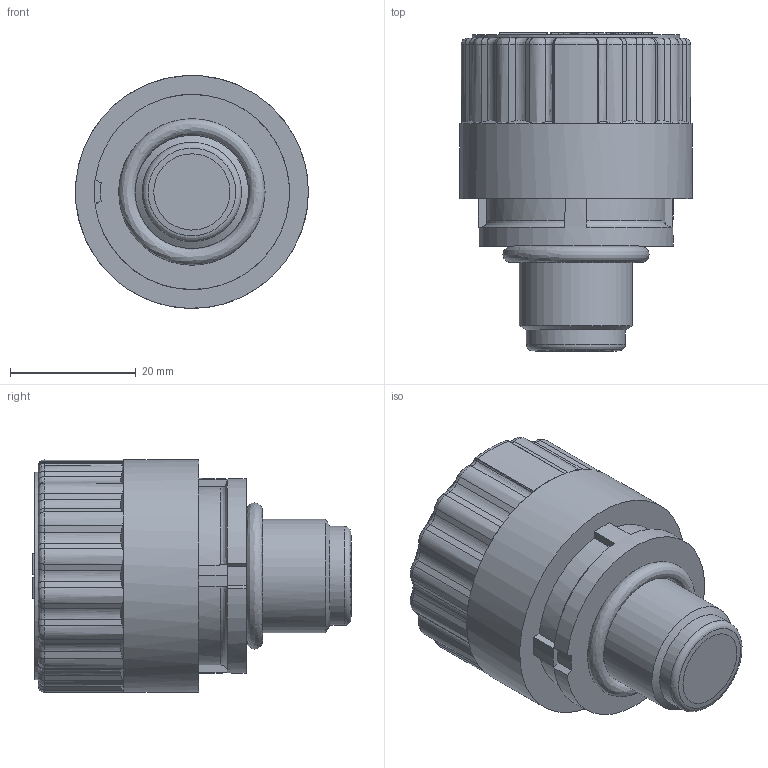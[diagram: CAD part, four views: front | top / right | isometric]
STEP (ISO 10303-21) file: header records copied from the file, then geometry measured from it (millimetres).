
FILE_DESCRIPTION((''),'2;1');
FILE_NAME('U:\Users\r.stiegele\11927300(237975).stp', '2014-03-11T07:04:18',('User'),('SDRC'),'I-DEAS Master Series 9','UNIX', 'Yes');
FILE_SCHEMA(('AUTOMOTIVE_DESIGN { 1 0 10303 214 1 1 1 1 }'));
Length unit declared in the file: millimetre
Products named in the file (1): 11927300(237975)
Bounding box: 36.97 x 50.6 x 36.99 mm (x, y, z)
Surface area: 7524.7 mm2 (no closed solid volume)
Topology: 0 solids, 2 shells, 438 faces, 1172 edges, 751 vertices
Faces by surface type: bspline 438
Entity records: 13597 total; most frequent: CARTESIAN_POINT 6690, ORIENTED_EDGE 2336, EDGE_CURVE 1168, VERTEX_POINT 751, B_SPLINE_CURVE_WITH_KNOTS 564, EDGE_LOOP 457, FACE_OUTER_BOUND 438, ADVANCED_FACE 438
